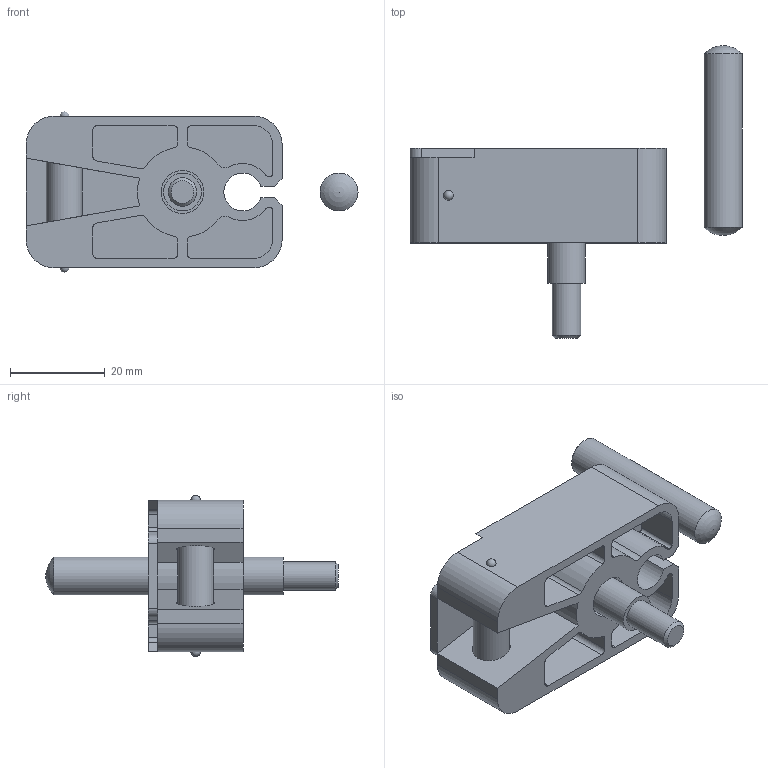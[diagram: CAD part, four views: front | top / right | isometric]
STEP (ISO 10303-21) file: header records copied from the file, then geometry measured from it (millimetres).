
FILE_DESCRIPTION( ( 'STEP AP203' ), ' ' );
FILE_NAME( 'p:/temp/worker_48/4736_1008/app_73_12016101709503407600387260eae72_000000_00_00_000000/format_0/MRT20M.stp', '2016-10-17T07:50:34', ( '' ), ( '' ), ' ', 'PARTsolutions', ' ' );
FILE_SCHEMA( ( 'CONFIG_CONTROL_DESIGN' ) );
Length unit declared in the file: millimetre
Products named in the file (6): MRT20M; _MRT20M1; _MRT20M2; _MRT20M3; _MRT20M4; _MRT20M5
Assembly tree (5 placements, depth 2):
  MRT20M
    _MRT20M1
    _MRT20M2
    _MRT20M3
    _MRT20M4
    _MRT20M5
Bounding box: 70 x 61.69 x 33.99 mm (x, y, z)
Volume: 19128.2 mm3; surface area: 16468.7 mm2
Topology: 5 solids, 5 shells, 165 faces, 434 edges, 288 vertices
Faces by surface type: plane 82, cylinder 77, sphere 4, cone 2
Full cylindrical faces by diameter (mm): 6 x2, 7.6 x1, 8 x4, 9 x2, 13 x1, 15 x2
Entity records: 5167 total; most frequent: DIRECTION 908, CARTESIAN_POINT 857, ORIENTED_EDGE 810, EDGE_CURVE 405, AXIS2_PLACEMENT_3D 332, VERTEX_POINT 281, LINE 244, VECTOR 244
